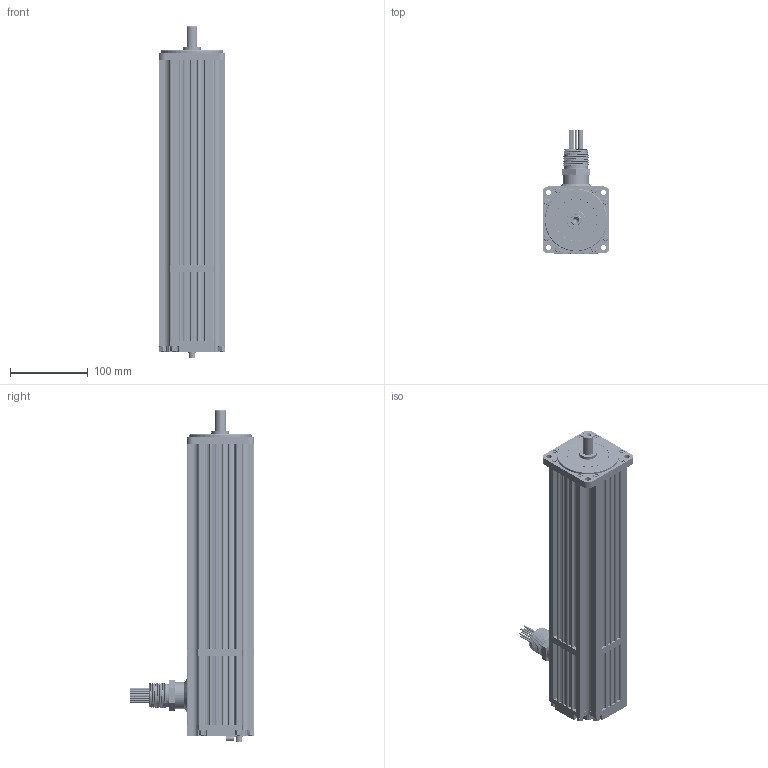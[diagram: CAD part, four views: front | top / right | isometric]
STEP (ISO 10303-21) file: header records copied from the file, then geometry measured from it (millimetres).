
FILE_DESCRIPTION (( 'STEP AP203' ), '1' );
FILE_NAME ('072797A.step', '2020-08-07T12:58:20', ( '' ), ( '' ), 'SwSTEP 2.0', 'SolidWorks 2019', '' );
FILE_SCHEMA (( 'CONFIG_CONTROL_DESIGN' ));
Products named in the file (1): 072797A
Bounding box: 86 x 159.08 x 426.31 mm (x, y, z)
Volume: 1879429.5 mm3; surface area: 611490.5 mm2
Topology: 142 solids, 145 shells, 5191 faces, 12904 edges, 8170 vertices
Faces by surface type: plane 2172, cylinder 1773, cone 525, bspline 411, torus 263, sphere 47
Entity records: 201373 total; most frequent: CARTESIAN_POINT 78961, ORIENTED_EDGE 25456, DIRECTION 25261, EDGE_CURVE 12728, AXIS2_PLACEMENT_3D 9269, VERTEX_POINT 8140, VECTOR 6723, LINE 6723
